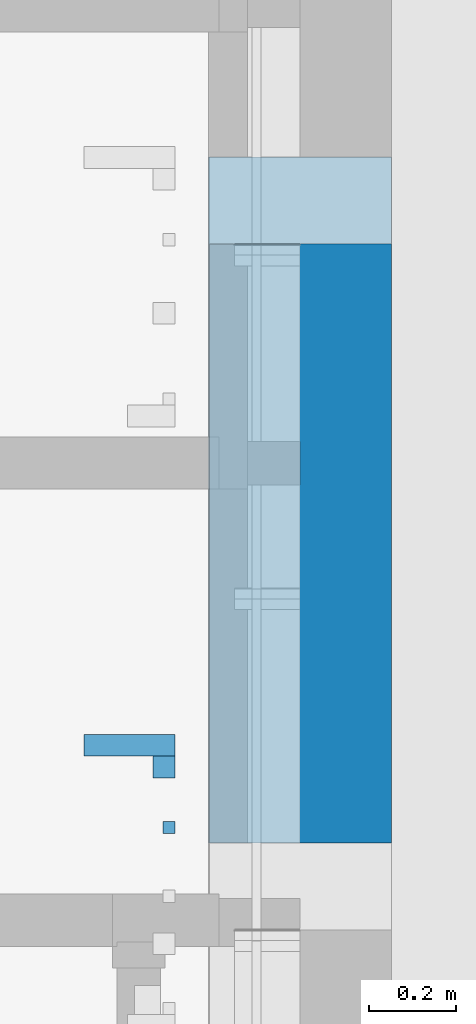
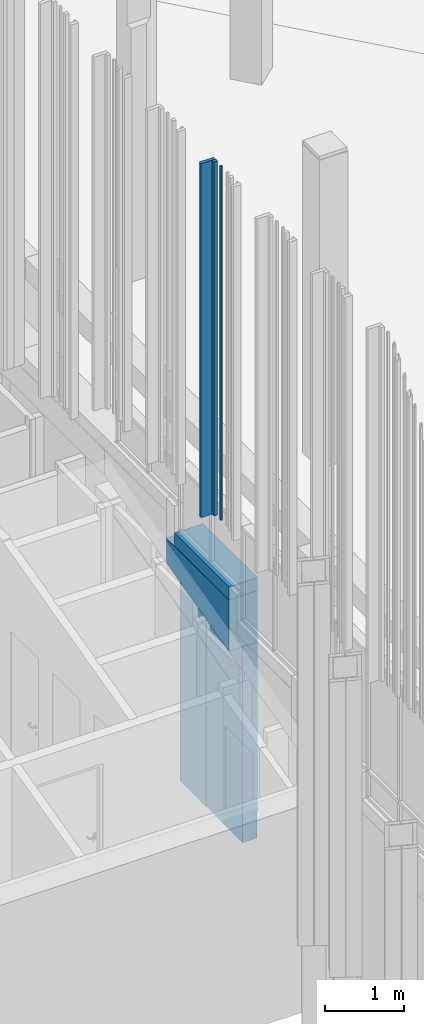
# One storey, part 121 of 390: 6 walls.
"""IFC2X3 building model written with IfcOpenShell, lengths in millimetres."""

from ifc_helpers import new_model, entity, si_unit, converted_unit, derived_unit, money_unit, direction, frame, origin_with_axes, place, context, subcontext, project, spatial, faceted_brep, material, material_list, type_object, element, save


model = new_model("IFC2X3")

# Units and contexts
model_context = context("Model", 3, precision=1e-05, world=origin_with_axes(), true_north=direction((0.0, 1.0)))
body_context = subcontext(model_context, "Body", "Model", "MODEL_VIEW")
ifc_project = project(units=[si_unit("LENGTHUNIT", "METRE", prefix="MILLI"), si_unit("AREAUNIT", "SQUARE_METRE"), si_unit("VOLUMEUNIT", "CUBIC_METRE"), converted_unit("PLANEANGLEUNIT", "DEGREE", entity("IfcPlaneAngleMeasure", 0.0174532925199), si_unit("PLANEANGLEUNIT", "RADIAN"), dimensions=[0, 0, 0, 0, 0, 0, 0]), si_unit("SOLIDANGLEUNIT", "STERADIAN"), money_unit("EUR"), converted_unit("TIMEUNIT", "Year", entity("IfcTimeMeasure", 31556926.0), si_unit("TIMEUNIT", "SECOND"), dimensions=[0, 0, 1, 0, 0, 0, 0]), si_unit("MASSUNIT", "GRAM", prefix="KILO"), si_unit("THERMODYNAMICTEMPERATUREUNIT", "DEGREE_CELSIUS"), si_unit("LUMINOUSINTENSITYUNIT", "LUMEN"), si_unit("ENERGYUNIT", "JOULE", prefix="MEGA"), derived_unit("THERMALCONDUCTANCEUNIT", [(si_unit("POWERUNIT", "WATT"), 1), (si_unit("LENGTHUNIT", "METRE"), -1), (si_unit("THERMODYNAMICTEMPERATUREUNIT", "KELVIN"), -1)]), derived_unit("SPECIFICHEATCAPACITYUNIT", [(si_unit("ENERGYUNIT", "JOULE"), 1), (si_unit("MASSUNIT", "GRAM", prefix="KILO"), -1), (si_unit("THERMODYNAMICTEMPERATUREUNIT", "KELVIN"), -1)]), derived_unit("MASSDENSITYUNIT", [(si_unit("MASSUNIT", "GRAM", prefix="KILO"), 1), (si_unit("VOLUMEUNIT", "CUBIC_METRE"), -1)])], contexts=[model_context])

# Site, building, storey
site_placement = place(None, origin_with_axes())
site = spatial("IfcSite", under=ifc_project, at=site_placement, Name="Site", CompositionType="ELEMENT")
building_placement = place(site_placement, origin_with_axes())
building = spatial("IfcBuilding", under=site, at=building_placement, Name="Building", CompositionType="ELEMENT")
storey_placement = place(building_placement, origin_with_axes())
storey = spatial("IfcBuildingStorey", under=building, at=storey_placement, Name="1 korrus", CompositionType="ELEMENT", Elevation=0.0)

# Walls
ifc_material_1 = material(Name="Krohv - Lubjakivi")
ifc_material_2 = material(Name="Raudbetoon - Konstruktsioon")
ifc_material_list_1 = material_list([ifc_material_1, ifc_material_2, ifc_material_1])
wall_type_1 = type_object("IfcWallType", Name="SS-10", PredefinedType="NOTDEFINED")
wall_1_placement = place(storey_placement, frame((122909.999995, 61237.5685601, -620.0), z_axis=(0.0, 0.0, 1.0), x_axis=(0.0, 1.0, 0.0)))
element("IfcWall", 1, at=wall_1_placement, inside=storey, type_object=wall_type_1, material=ifc_material_list_1, Name="SS-10", context=body_context, shape_type="Brep", body=[
    faceted_brep([(1575.0, 220.000000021, 3424.13396575), (1575.0, 210.000000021, 3424.13396575), (1575.0, 210.000000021, 0.0), (1575.0, 220.000000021, 0.0), (-2.81374923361e-09, 210.0, 3013.57978723), (-2.9487523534e-09, 220.0, 3013.57978723), (-2.81374923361e-09, 210.0, 0.0), (822.431449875, 210.000000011, 0.0), (822.431449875, 210.000000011, 2946.61127132), (922.431449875, 210.000000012, 2946.61127132), (922.431449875, 210.000000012, 0.0), (922.431449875, 220.000000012, 0.0), (922.431449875, 220.000000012, 2946.61127132), (822.431449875, 220.000000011, 2946.61127132), (822.431449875, 220.000000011, 0.0), (-2.9487523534e-09, 220.0, 0.0)], [[[0, 1, 2, 3]], [[4, 1, 0, 5]], [[1, 4, 6, 7, 8, 9, 10, 2]], [[2, 10, 11, 3]], [[5, 0, 3, 11, 12, 13, 14, 15]], [[4, 5, 15, 6]], [[15, 14, 7, 6]], [[13, 8, 7, 14]], [[12, 9, 8, 13]], [[11, 10, 9, 12]]]),
    faceted_brep([(1575.0, 210.000000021, 3424.13396575), (1575.0, 10.0000000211, 3424.13396573), (1575.0, 10.0000000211, 0.0), (1575.0, 210.000000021, 0.0), (-1.35003119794e-10, 10.0, 3013.57978721), (-2.81374923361e-09, 210.0, 3013.57978723), (-1.35003119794e-10, 10.0, 0.0), (-2.81374923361e-09, 210.0, 0.0)], [[[0, 1, 2, 3]], [[4, 1, 0, 5]], [[1, 4, 6, 2]], [[7, 3, 2, 6]], [[5, 0, 3, 7]], [[4, 5, 7, 6]]]),
    faceted_brep([(1575.0, 10.0000000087, 3424.13396573), (1575.0, 2.11173301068e-08, 3424.13396573), (1575.0, 2.11173301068e-08, 400.0), (1575.0, 9.99999702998, 400.0), (0.0, 0.0, 3013.57978721), (-1.35003119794e-10, 9.99999958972, 3013.57978721), (0.0, 0.0, 400.0), (-1.35003119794e-10, 9.99999705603, 400.0)], [[[0, 1, 2, 3]], [[4, 1, 0, 5]], [[1, 4, 6, 2]], [[7, 3, 2, 6]], [[5, 0, 3, 7]], [[4, 5, 7, 6]]]),
])
ifc_material_3 = material(Name="Membraan - Veekindel")
ifc_material_4 = material(Name="Soojustus - Plastik Kõva")
ifc_material_list_2 = material_list([ifc_material_3, ifc_material_3, ifc_material_4, ifc_material_4, ifc_material_2, ifc_material_1])
wall_type_2 = type_object("IfcWallType", Name="VS-03", PredefinedType="NOTDEFINED")
wall_2_placement = place(storey_placement, frame((122909.999995, 61237.5685601, 2393.02560869), z_axis=(0.0, 0.0, 1.0), x_axis=(0.0, 1.0, 0.0)))
element("IfcWall", 2, at=wall_2_placement, inside=storey, type_object=wall_type_2, material=ifc_material_list_2, Name="VS-03", context=body_context, shape_type="Brep", body=[
    faceted_brep([(-5.563549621e-09, 415.0, 0.554178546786), (1575.00000652, 415.000000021, 411.108358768), (1575.00000652, 415.000000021, 786.974391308), (-5.563549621e-09, 415.0, 786.974391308), (1575.00000652, 420.000000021, 411.108358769), (-5.62749846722e-09, 420.0, 0.55417854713), (1575.00000652, 420.000000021, 786.974391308), (-5.62749846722e-09, 420.0, 786.974391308)], [[[0, 1, 2, 3]], [[4, 1, 0, 5]], [[1, 4, 6, 2]], [[3, 2, 6, 7]], [[5, 0, 3, 7]], [[4, 5, 7, 6]]]),
    faceted_brep([(-5.49249534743e-09, 410.0, 0.554178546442), (1575.00000652, 410.000000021, 411.108358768), (1575.00000652, 410.000000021, 786.974391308), (-5.49249534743e-09, 410.0, 786.974391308), (1575.00000652, 415.000000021, 411.108358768), (-5.563549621e-09, 415.0, 0.554178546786), (1575.00000652, 415.000000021, 786.974391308), (-5.563549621e-09, 415.0, 786.974391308)], [[[0, 1, 2, 3]], [[4, 1, 0, 5]], [[1, 4, 6, 2]], [[3, 2, 6, 7]], [[5, 0, 3, 7]], [[4, 5, 7, 6]]]),
    faceted_brep([(-4.82458517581e-09, 360.0, 0.554178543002), (1575.00000652, 360.000000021, 411.108358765), (1575.00000652, 360.000000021, 786.974391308), (-4.82458517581e-09, 360.0, 786.974391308), (1575.00000652, 410.000000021, 411.108358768), (-5.49249534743e-09, 410.0, 0.554178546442), (1575.00000652, 410.000000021, 786.974391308), (-5.49249534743e-09, 410.0, 786.974391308)], [[[0, 1, 2, 3]], [[4, 1, 0, 5]], [[1, 4, 6, 2]], [[3, 2, 6, 7]], [[5, 0, 3, 7]], [[4, 5, 7, 6]]]),
    faceted_brep([(-2.81374923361e-09, 210.0, 0.554178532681), (1575.00000653, 210.000000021, 411.108358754), (1575.00000653, 210.000000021, 786.974391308), (-2.81374923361e-09, 210.0, 786.974391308), (1575.00000652, 360.000000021, 411.108358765), (-4.82458517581e-09, 360.0, 0.554178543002), (1575.00000652, 360.000000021, 786.974391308), (-4.82458517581e-09, 360.0, 786.974391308)], [[[0, 1, 2, 3]], [[4, 1, 0, 5]], [[1, 4, 6, 2]], [[3, 2, 6, 7]], [[5, 0, 3, 7]], [[4, 5, 7, 6]]]),
    faceted_brep([(-1.35003119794e-10, 10.0, 0.554178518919), (1575.00000653, 10.0000000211, 411.108358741), (1575.00000653, 10.0000000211, 786.974391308), (-1.35003119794e-10, 10.0, 786.974391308), (1575.00000653, 210.000000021, 411.108358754), (-2.81374923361e-09, 210.0, 0.554178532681), (1575.00000653, 210.000000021, 786.974391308), (-2.81374923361e-09, 210.0, 786.974391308)], [[[0, 1, 2, 3]], [[4, 1, 0, 5]], [[1, 4, 6, 2]], [[3, 2, 6, 7]], [[5, 0, 3, 7]], [[4, 5, 7, 6]]]),
    faceted_brep([(0.0, 0.0, 0.554178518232), (1575.00000653, 2.11173301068e-08, 411.10835874), (1575.00000653, 2.11173301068e-08, 786.974391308), (0.0, 0.0, 786.974391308), (1575.00000653, 10.0000000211, 411.108358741), (-1.35003119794e-10, 10.0, 0.554178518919), (1575.00000653, 10.0000000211, 786.974391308), (-1.35003119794e-10, 10.0, 786.974391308)], [[[0, 1, 2, 3]], [[4, 1, 0, 5]], [[1, 4, 6, 2]], [[3, 2, 6, 7]], [[5, 0, 3, 7]], [[4, 5, 7, 6]]]),
])
ifc_material_5 = material(Name="Site specified")
wall_type_3 = type_object("IfcWallType", Name="Puitfassaadi ribistik", PredefinedType="NOTDEFINED")
wall_3_placement = place(storey_placement, frame((122308.499996, 61461.9999924, 4424.99966101), z_axis=(0.0, 0.0, 1.0), x_axis=(0.0, 1.0, 0.0)))
element("IfcWall", 3, at=wall_3_placement, inside=storey, type_object=wall_type_3, material=ifc_material_5, Name="Site specified", context=body_context, shape_type="Brep", body=[
    faceted_brep([(25.0, 104.5, 5440.00033899), (25.0, 104.5, 0.0), (-25.0, 104.5, 0.0), (-25.0, 104.5, 5440.00033899), (25.0, -104.5, 5440.00033899), (25.0, -104.5, 0.0), (-25.0, -104.5, 0.0), (-25.0, -104.5, 5440.00033899)], [[[0, 1, 2, 3]], [[4, 5, 1, 0]], [[2, 1, 5, 6]], [[3, 2, 6, 7]], [[4, 0, 3, 7]], [[7, 6, 5, 4]]]),
])
wall_4_placement = place(storey_placement, frame((122387.999996, 61411.9999924, 4424.99966101), z_axis=(0.0, 0.0, 1.0), x_axis=(0.0, 1.0, 0.0)))
element("IfcWall", 4, at=wall_4_placement, inside=storey, type_object=wall_type_3, material=ifc_material_5, Name="Site specified", context=body_context, shape_type="Brep", body=[
    faceted_brep([(25.0, 25.0, 5440.00033899), (25.0, 25.0, 0.0), (-25.0, 25.0, 0.0), (-25.0, 25.0, 5440.00033899), (25.0, -25.0, 5440.00033899), (25.0, -25.0, 0.0), (-25.0, -25.0, 0.0), (-25.0, -25.0, 5440.00033899)], [[[0, 1, 2, 3]], [[4, 5, 1, 0]], [[2, 1, 5, 6]], [[3, 2, 6, 7]], [[4, 0, 3, 7]], [[7, 6, 5, 4]]]),
])
wall_5_placement = place(storey_placement, frame((122398.999996, 61272.9999924, 4424.99966101), z_axis=(0.0, 0.0, 1.0), x_axis=(0.0, 1.0, 0.0)))
element("IfcWall", 5, at=wall_5_placement, inside=storey, type_object=wall_type_3, material=ifc_material_5, Name="Site specified", context=body_context, shape_type="Brep", body=[
    faceted_brep([(14.0, 14.0, 5440.00033899), (14.0, 14.0, 0.0), (-14.0, 14.0, 0.0), (-14.0, 14.0, 5440.00033899), (14.0, -14.0, 5440.00033899), (14.0, -14.0, 0.0), (-14.0, -14.0, 0.0), (-14.0, -14.0, 5440.00033899)], [[[0, 1, 2, 3]], [[4, 5, 1, 0]], [[2, 1, 5, 6]], [[3, 2, 6, 7]], [[4, 0, 3, 7]], [[7, 6, 5, 4]]]),
])
ifc_material_6 = material(Name="Plaat - Sein")
ifc_material_list_3 = material_list([ifc_material_6, ifc_material_4, ifc_material_4, ifc_material_2, ifc_material_1])
wall_type_4 = type_object("IfcWallType", Name="VS-05", PredefinedType="NOTDEFINED")
wall_6_placement = place(storey_placement, frame((122909.999995, 61237.5685601, 3180.0), z_axis=(0.0, 0.0, 1.0), x_axis=(0.0, 1.0, 0.0)))
element("IfcWall", 6, at=wall_6_placement, inside=storey, type_object=wall_type_4, material=ifc_material_list_3, Name="VS-05", context=body_context, shape_type="Brep", body=[
    faceted_brep([(1375.00000652, 418.000000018, 0.0), (1375.00000652, 410.000000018, 0.0), (-5.49249534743e-09, 410.0, 0.0), (-5.59907675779e-09, 418.0, 0.0), (1375.00000652, 418.000000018, 200.0), (1375.00000652, 410.000000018, 200.0), (-5.49249534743e-09, 410.0, 200.0), (-5.59907675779e-09, 418.0, 200.0)], [[[0, 1, 2, 3]], [[0, 4, 5, 1]], [[1, 5, 6, 2]], [[3, 2, 6, 7]], [[4, 0, 3, 7]], [[5, 4, 7, 6]]]),
    faceted_brep([(1375.00000652, 410.000000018, 0.0), (1375.00000652, 360.000000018, 0.0), (-4.82458517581e-09, 360.0, 0.0), (-5.49249534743e-09, 410.0, 0.0), (1375.00000652, 410.000000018, 200.0), (1375.00000652, 360.000000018, 200.0), (-4.82458517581e-09, 360.0, 200.0), (-5.49249534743e-09, 410.0, 200.0)], [[[0, 1, 2, 3]], [[0, 4, 5, 1]], [[1, 5, 6, 2]], [[3, 2, 6, 7]], [[4, 0, 3, 7]], [[5, 4, 7, 6]]]),
    faceted_brep([(1375.00000652, 360.000000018, 0.0), (1375.00000653, 210.000000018, 0.0), (-2.81374923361e-09, 210.0, 0.0), (-4.82458517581e-09, 360.0, 0.0), (1375.00000652, 360.000000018, 200.0), (1375.00000653, 210.000000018, 200.0), (-2.81374923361e-09, 210.0, 200.0), (-4.82458517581e-09, 360.0, 200.0)], [[[0, 1, 2, 3]], [[0, 4, 5, 1]], [[1, 5, 6, 2]], [[3, 2, 6, 7]], [[4, 0, 3, 7]], [[5, 4, 7, 6]]]),
    faceted_brep([(1375.00000653, 210.000000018, 0.0), (1375.00000653, 10.0000000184, 0.0), (-1.35003119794e-10, 10.0, 0.0), (-2.81374923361e-09, 210.0, 0.0), (1375.00000653, 210.000000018, 200.0), (1375.00000653, 10.0000000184, 200.0), (-1.35003119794e-10, 10.0, 200.0), (-2.81374923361e-09, 210.0, 200.0)], [[[0, 1, 2, 3]], [[0, 4, 5, 1]], [[1, 5, 6, 2]], [[3, 2, 6, 7]], [[4, 0, 3, 7]], [[5, 4, 7, 6]]]),
    faceted_brep([(1375.00000653, 10.0000000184, 0.0), (1375.00000653, 1.84314785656e-08, 0.0), (0.0, 0.0, 0.0), (-1.35003119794e-10, 10.0, 0.0), (1375.00000653, 10.0000000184, 200.0), (1375.00000653, 1.84314785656e-08, 200.0), (0.0, 0.0, 200.0), (-1.35003119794e-10, 10.0, 200.0)], [[[0, 1, 2, 3]], [[0, 4, 5, 1]], [[1, 5, 6, 2]], [[3, 2, 6, 7]], [[4, 0, 3, 7]], [[5, 4, 7, 6]]]),
])

save(model, "model.ifc")
